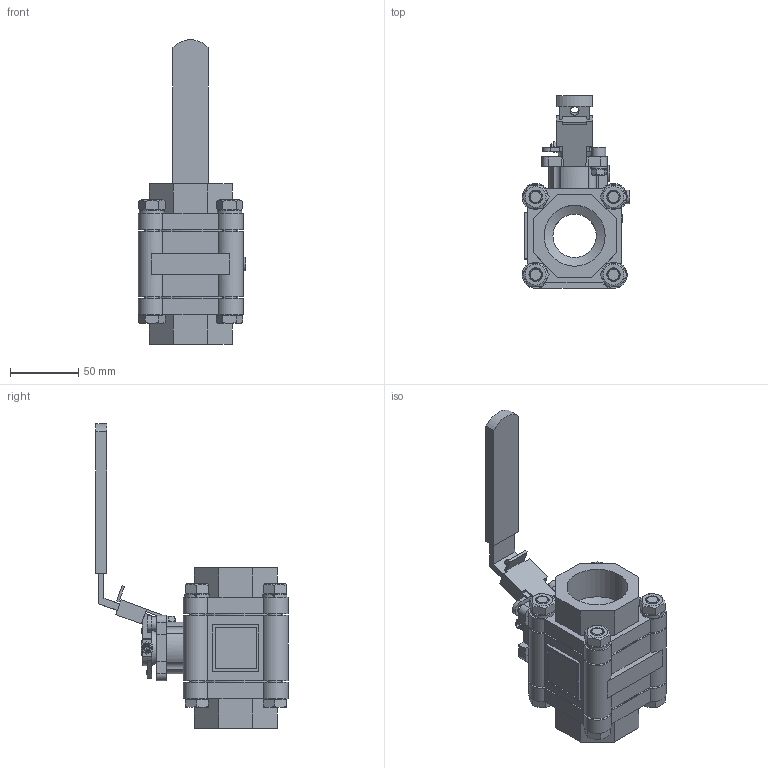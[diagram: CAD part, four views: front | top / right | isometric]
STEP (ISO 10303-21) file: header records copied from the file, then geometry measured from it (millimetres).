
FILE_DESCRIPTION(/* description */ ('Eriks item no: 13278910'),/* implementation_level */ '2;1');
FILE_NAME(/* name */ 'L:\DATA\ENG\Inventor\Econ 3D modellen\kogelkranen\7442\Rubens Versie\7442-DN40-RB.stp',/* time_stamp */ '2023-06-08T07:52:22+02:00',/* author */ ('roger.thijssen'),/* organization */ (''),/* preprocessor_version */ 'ST-DEVELOPER v18',/* originating_system */ 'Autodesk Inventor 2020',/* authorisation */ '');
FILE_SCHEMA (('CONFIG_CONTROL_DESIGN'));
Length unit declared in the file: millimetre
Products named in the file (1): Ball valve, 7442 - 1.1/2" - RB, (TF4103)
Bounding box: 79.17 x 141.46 x 224 mm (x, y, z)
Volume: 465562.5 mm3; surface area: 107007.1 mm2
Topology: 1 solids, 1 shells, 672 faces, 1761 edges, 1129 vertices
Faces by surface type: plane 437, cylinder 139, cone 64, bspline 30, sphere 1, torus 1
Full cylindrical faces by diameter (mm): 5 x2, 6 x1, 6.5 x2, 8.566 x1, 10 x5, 10.5 x1, 11 x12, 12 x1, 15.6 x4, 30 x1, 31.8 x2, 32 x1, 35 x1, 44.845 x2, 69 x2
Entity records: 21269 total; most frequent: CARTESIAN_POINT 4606, ORIENTED_EDGE 3520, DIRECTION 3315, EDGE_CURVE 1760, AXIS2_PLACEMENT_3D 1136, VERTEX_POINT 1129, LINE 1043, VECTOR 1043
